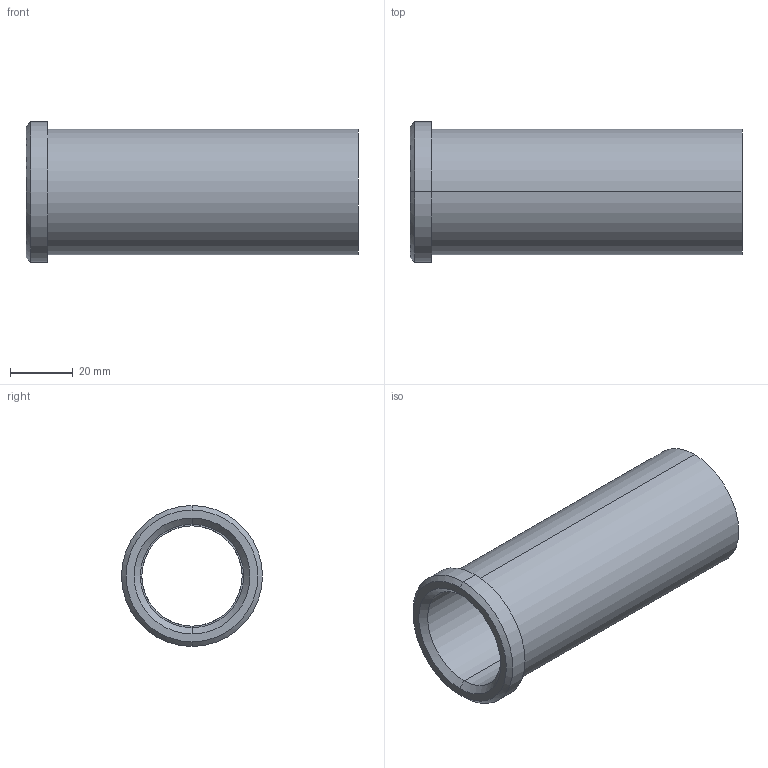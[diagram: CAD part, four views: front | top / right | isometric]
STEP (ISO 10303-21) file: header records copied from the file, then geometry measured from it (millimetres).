
FILE_DESCRIPTION(('CATIA V5 STEP Exchange'),'2;1');
FILE_NAME('C:\Users\Utente\Desktop\IO LAVORO\3D X SITO CF\X SITO\PLASTICA\353\353-32X106.stp','2021-05-12T18:52:05+00:00',('none'),('none'),'CATIA Version 5 Release 20 GA (IN-10)','CATIA V5 STEP AP203','none');
FILE_SCHEMA(('CONFIG_CONTROL_DESIGN'));
Length unit declared in the file: millimetre
Products named in the file (1): 353-32X106
Bounding box: 106 x 45 x 45 mm (x, y, z)
Volume: 47685.7 mm3; surface area: 25463 mm2
Topology: 1 solids, 1 shells, 18 faces, 58 edges, 44 vertices
Faces by surface type: cylinder 8, plane 4, cone 4, torus 2
Entity records: 840 total; most frequent: CARTESIAN_POINT 289, ORIENTED_EDGE 116, DIRECTION 82, EDGE_CURVE 58, AXIS2_PLACEMENT_3D 53, VERTEX_POINT 44, CIRCLE 34, EDGE_LOOP 22
